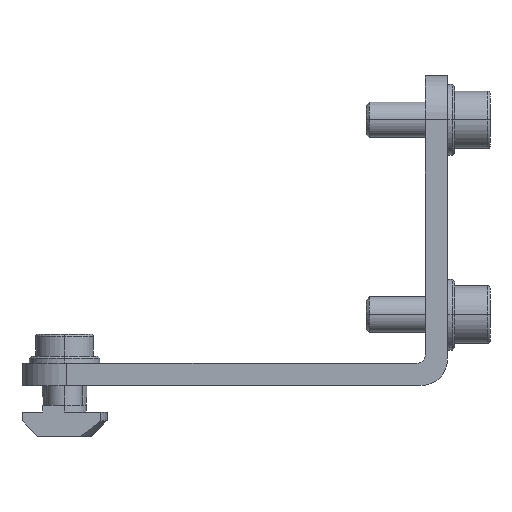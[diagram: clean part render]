
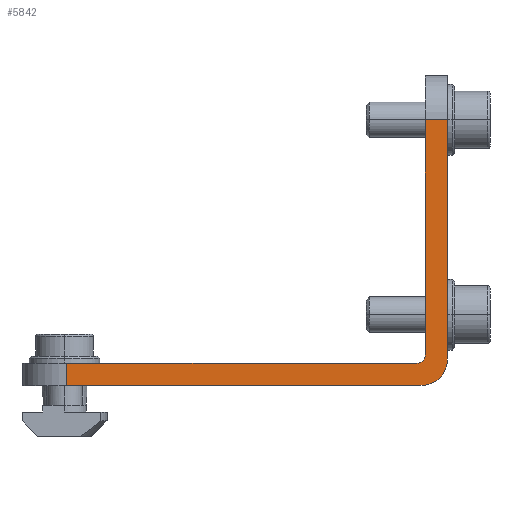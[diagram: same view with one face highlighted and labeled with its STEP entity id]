
A CAD part, left-side view. The second image highlights one B-rep face of the part: STEP entity #5842.
In plain terms, the highlighted planar face has unit normal (-1, 0, 0).
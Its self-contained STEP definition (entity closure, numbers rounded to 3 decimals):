
#129 = AXIS2_PLACEMENT_3D ( 'NONE', #3245, #3707, #5401 ) ;
#136 = VERTEX_POINT ( 'NONE', #6301 ) ;
#154 = LINE ( 'NONE', #1231, #6763 ) ;
#183 = CARTESIAN_POINT ( 'NONE',  ( -36., 0., 60. ) ) ;
#302 = ORIENTED_EDGE ( 'NONE', *, *, #2202, .T. ) ;
#379 = VECTOR ( 'NONE', #2991, 1000. ) ;
#511 = VERTEX_POINT ( 'NONE', #1556 ) ;
#691 = CIRCLE ( 'NONE', #129, 6. ) ;
#757 = LINE ( 'NONE', #1871, #2854 ) ;
#842 = CARTESIAN_POINT ( 'NONE',  ( -36., 81., 6. ) ) ;
#912 = ORIENTED_EDGE ( 'NONE', *, *, #5726, .T. ) ;
#1056 = VERTEX_POINT ( 'NONE', #4667 ) ;
#1137 = VERTEX_POINT ( 'NONE', #4797 ) ;
#1178 = CARTESIAN_POINT ( 'NONE',  ( -36., 1., 0. ) ) ;
#1231 = CARTESIAN_POINT ( 'NONE',  ( -36., 2., 5. ) ) ;
#1397 = EDGE_CURVE ( 'NONE', #136, #6180, #6739, .T. ) ;
#1556 = CARTESIAN_POINT ( 'NONE',  ( -36., 81., 0. ) ) ;
#1572 = DIRECTION ( 'NONE',  ( 0., 0., 1. ) ) ;
#1707 = DIRECTION ( 'NONE',  ( 1., 0., 0. ) ) ;
#1743 = DIRECTION ( 'NONE',  ( 0., 0., -1. ) ) ;
#1833 = VERTEX_POINT ( 'NONE', #1178 ) ;
#1859 = DIRECTION ( 'NONE',  ( 0., 0., -1. ) ) ;
#1871 = CARTESIAN_POINT ( 'NONE',  ( -36., 91., 0. ) ) ;
#1953 = CARTESIAN_POINT ( 'NONE',  ( -36., 81., 5. ) ) ;
#1958 = DIRECTION ( 'NONE',  ( 0., 0., -1. ) ) ;
#2202 = EDGE_CURVE ( 'NONE', #6180, #1137, #3624, .T. ) ;
#2369 = ORIENTED_EDGE ( 'NONE', *, *, #5197, .T. ) ;
#2372 = DIRECTION ( 'NONE',  ( 0., -1., 0. ) ) ;
#2716 = CARTESIAN_POINT ( 'NONE',  ( -36., -5., 6. ) ) ;
#2806 = CARTESIAN_POINT ( 'NONE',  ( -36., 2., 7. ) ) ;
#2854 = VECTOR ( 'NONE', #2372, 1000. ) ;
#2977 = VERTEX_POINT ( 'NONE', #4359 ) ;
#2991 = DIRECTION ( 'NONE',  ( 0., 0., -1. ) ) ;
#3093 = EDGE_CURVE ( 'NONE', #1137, #2977, #4477, .T. ) ;
#3107 = LINE ( 'NONE', #2716, #5742 ) ;
#3245 = CARTESIAN_POINT ( 'NONE',  ( -36., 1., 6. ) ) ;
#3268 = VERTEX_POINT ( 'NONE', #1953 ) ;
#3273 = AXIS2_PLACEMENT_3D ( 'NONE', #6628, #6697, #1859 ) ;
#3387 = DIRECTION ( 'NONE',  ( 0., 1., 0. ) ) ;
#3439 = ORIENTED_EDGE ( 'NONE', *, *, #4965, .T. ) ;
#3527 = CARTESIAN_POINT ( 'NONE',  ( -36., 1., 60. ) ) ;
#3624 = LINE ( 'NONE', #4678, #5028 ) ;
#3707 = DIRECTION ( 'NONE',  ( -1., 0., 0. ) ) ;
#3714 = ORIENTED_EDGE ( 'NONE', *, *, #5597, .T. ) ;
#3935 = ORIENTED_EDGE ( 'NONE', *, *, #5840, .T. ) ;
#4020 = ORIENTED_EDGE ( 'NONE', *, *, #3093, .T. ) ;
#4048 = DIRECTION ( 'NONE',  ( 0., 1., 0. ) ) ;
#4359 = CARTESIAN_POINT ( 'NONE',  ( -36., 2., 5. ) ) ;
#4473 = PLANE ( 'NONE',  #3273 ) ;
#4477 = CIRCLE ( 'NONE', #4603, 2. ) ;
#4603 = AXIS2_PLACEMENT_3D ( 'NONE', #2806, #1707, #1743 ) ;
#4628 = EDGE_LOOP ( 'NONE', ( #3714, #6144, #302, #4020, #3935, #3439, #2369, #912 ) ) ;
#4667 = CARTESIAN_POINT ( 'NONE',  ( -36., -5., 6. ) ) ;
#4678 = CARTESIAN_POINT ( 'NONE',  ( -36., 0., 70. ) ) ;
#4797 = CARTESIAN_POINT ( 'NONE',  ( -36., 0., 7. ) ) ;
#4965 = EDGE_CURVE ( 'NONE', #3268, #511, #6269, .T. ) ;
#5028 = VECTOR ( 'NONE', #1958, 1000. ) ;
#5197 = EDGE_CURVE ( 'NONE', #511, #1833, #757, .T. ) ;
#5401 = DIRECTION ( 'NONE',  ( 0., 0., -1. ) ) ;
#5543 = FACE_OUTER_BOUND ( 'NONE', #4628, .T. ) ;
#5597 = EDGE_CURVE ( 'NONE', #1056, #136, #3107, .T. ) ;
#5726 = EDGE_CURVE ( 'NONE', #1833, #1056, #691, .T. ) ;
#5742 = VECTOR ( 'NONE', #1572, 1000. ) ;
#5840 = EDGE_CURVE ( 'NONE', #2977, #3268, #154, .T. ) ;
#5842 = ADVANCED_FACE ( 'NONE', ( #5543 ), #4473, .F. ) ;
#6144 = ORIENTED_EDGE ( 'NONE', *, *, #1397, .T. ) ;
#6180 = VERTEX_POINT ( 'NONE', #183 ) ;
#6269 = LINE ( 'NONE', #842, #379 ) ;
#6301 = CARTESIAN_POINT ( 'NONE',  ( -36., -5., 60. ) ) ;
#6628 = CARTESIAN_POINT ( 'NONE',  ( -36., 1., 6. ) ) ;
#6629 = VECTOR ( 'NONE', #4048, 1000. ) ;
#6697 = DIRECTION ( 'NONE',  ( 1., 0., 0. ) ) ;
#6739 = LINE ( 'NONE', #3527, #6629 ) ;
#6763 = VECTOR ( 'NONE', #3387, 1000. ) ;
